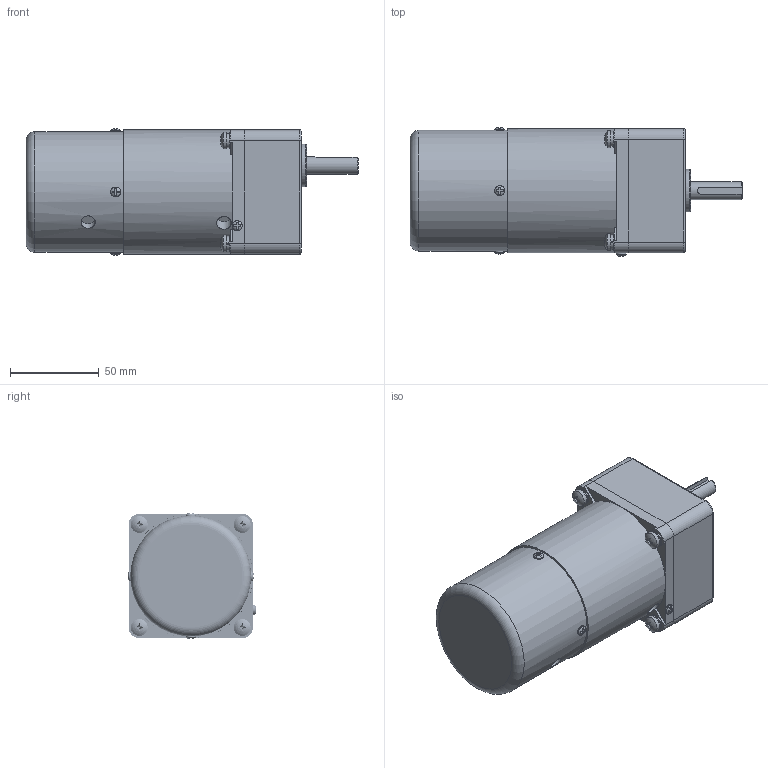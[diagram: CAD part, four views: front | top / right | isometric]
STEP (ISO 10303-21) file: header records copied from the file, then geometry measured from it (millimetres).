
FILE_DESCRIPTION(/* description */ (''),/* implementation_level */ '2;1');
FILE_NAME(/* name */ '70矮箱L-15W刹车.stp',/* time_stamp */ '2022-10-31T09:19:44+08:00',/* author */ (''),/* organization */ (''),/* preprocessor_version */ 'ST-DEVELOPER v16.7',/* originating_system */ 'SIEMENS PLM Software NX 1899',/* authorisation */ '');
FILE_SCHEMA (('AP203_CONFIGURATION_CONTROLLED_3D_DESIGN_OF_MECHANICAL_PARTS_AND_ASSEMBLIES_MIM_LF { 1 0 10303 403 2 1 2}'));
Products named in the file (1): yf186188FEB6lc6u
Bounding box: 187 x 72.68 x 71.28 mm (x, y, z)
Volume: 623859.5 mm3; surface area: 64018.8 mm2
Topology: 14 solids, 19 shells, 379 faces, 961 edges, 641 vertices
Faces by surface type: plane 187, bspline 88, cylinder 77, torus 11, sphere 9, cone 7
Full cylindrical faces by diameter (mm): 2.7 x1, 4.826 x4, 5 x4, 5.3 x4, 5.6 x5, 6 x5, 8 x1, 8.3 x1, 9 x4, 9.5 x4, 10 x1, 24 x1, 63 x1, 66.6 x2, 68 x1, 70 x1
Entity records: 57139 total; most frequent: CARTESIAN_POINT 48622, ORIENTED_EDGE 1704, DIRECTION 1459, EDGE_CURVE 852, VERTEX_POINT 594, AXIS2_PLACEMENT_3D 576, EDGE_LOOP 485, ADVANCED_FACE 379
